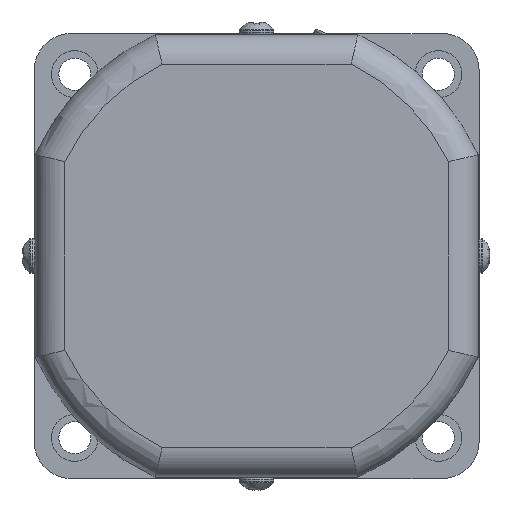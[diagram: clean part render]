
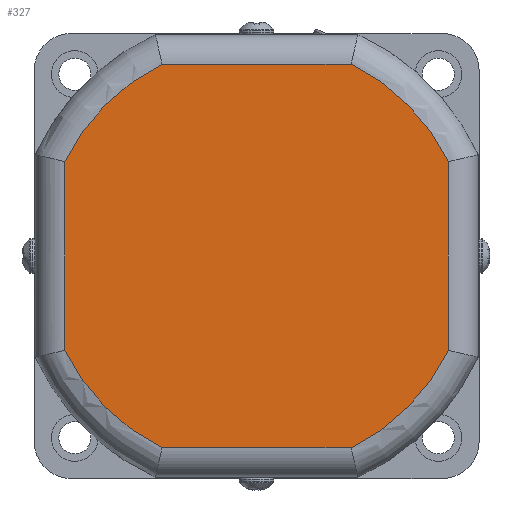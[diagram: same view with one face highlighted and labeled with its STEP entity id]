
A CAD part, left-side view. The second image highlights one B-rep face of the part: STEP entity #327.
In plain terms, the highlighted planar face has unit normal (-1, 0, 0).
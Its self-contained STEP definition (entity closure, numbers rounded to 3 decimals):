
#252=CARTESIAN_POINT('',(-23.,0.,0.));
#253=DIRECTION('',(1.0,0.0,0.0));
#254=DIRECTION('',(0.0,0.0,-1.0));
#255=AXIS2_PLACEMENT_3D('',#252,#253,#254);
#256=PLANE('',#255);
#257=CARTESIAN_POINT('',(-23.,38.8,-19.108));
#258=VERTEX_POINT('',#257);
#259=CARTESIAN_POINT('',(-23.,38.8,19.108));
#260=VERTEX_POINT('',#259);
#261=CARTESIAN_POINT('',(-23.,38.8,-19.108));
#262=DIRECTION('',(0.0,0.0,1.0));
#263=VECTOR('',#262,38.216);
#264=LINE('',#261,#263);
#265=EDGE_CURVE('',#258,#260,#264,.T.);
#266=ORIENTED_EDGE('',*,*,#265,.F.);
#267=CARTESIAN_POINT('',(-23.,19.108,-38.8));
#268=VERTEX_POINT('',#267);
#269=CARTESIAN_POINT('',(-23.,0.,0.));
#270=DIRECTION('',(1.,0.0,0.0));
#271=DIRECTION('',(0.0,0.707,-0.707));
#272=AXIS2_PLACEMENT_3D('',#269,#270,#271);
#273=CIRCLE('',#272,43.25);
#274=EDGE_CURVE('',#268,#258,#273,.T.);
#275=ORIENTED_EDGE('',*,*,#274,.F.);
#276=CARTESIAN_POINT('',(-23.,-19.108,-38.8));
#277=VERTEX_POINT('',#276);
#278=CARTESIAN_POINT('',(-23.,-19.108,-38.8));
#279=DIRECTION('',(0.0,1.0,0.0));
#280=VECTOR('',#279,38.216);
#281=LINE('',#278,#280);
#282=EDGE_CURVE('',#277,#268,#281,.T.);
#283=ORIENTED_EDGE('',*,*,#282,.F.);
#284=CARTESIAN_POINT('',(-23.,-38.8,-19.108));
#285=VERTEX_POINT('',#284);
#286=CARTESIAN_POINT('',(-23.,0.,0.));
#287=DIRECTION('',(1.,0.0,0.0));
#288=DIRECTION('',(0.0,-0.707,-0.707));
#289=AXIS2_PLACEMENT_3D('',#286,#287,#288);
#290=CIRCLE('',#289,43.25);
#291=EDGE_CURVE('',#285,#277,#290,.T.);
#292=ORIENTED_EDGE('',*,*,#291,.F.);
#293=CARTESIAN_POINT('',(-23.,-38.8,19.108));
#294=VERTEX_POINT('',#293);
#295=CARTESIAN_POINT('',(-23.,-38.8,19.108));
#296=DIRECTION('',(0.0,0.0,-1.0));
#297=VECTOR('',#296,38.216);
#298=LINE('',#295,#297);
#299=EDGE_CURVE('',#294,#285,#298,.T.);
#300=ORIENTED_EDGE('',*,*,#299,.F.);
#301=CARTESIAN_POINT('',(-23.,-19.108,38.8));
#302=VERTEX_POINT('',#301);
#303=CARTESIAN_POINT('',(-23.,0.,0.));
#304=DIRECTION('',(1.,0.0,0.0));
#305=DIRECTION('',(0.0,-0.707,0.707));
#306=AXIS2_PLACEMENT_3D('',#303,#304,#305);
#307=CIRCLE('',#306,43.25);
#308=EDGE_CURVE('',#302,#294,#307,.T.);
#309=ORIENTED_EDGE('',*,*,#308,.F.);
#310=CARTESIAN_POINT('',(-23.,19.108,38.8));
#311=VERTEX_POINT('',#310);
#312=CARTESIAN_POINT('',(-23.,19.108,38.8));
#313=DIRECTION('',(0.0,-1.0,0.0));
#314=VECTOR('',#313,38.216);
#315=LINE('',#312,#314);
#316=EDGE_CURVE('',#311,#302,#315,.T.);
#317=ORIENTED_EDGE('',*,*,#316,.F.);
#318=CARTESIAN_POINT('',(-23.,0.,0.));
#319=DIRECTION('',(1.,0.0,0.0));
#320=DIRECTION('',(0.0,0.707,0.707));
#321=AXIS2_PLACEMENT_3D('',#318,#319,#320);
#322=CIRCLE('',#321,43.25);
#323=EDGE_CURVE('',#260,#311,#322,.T.);
#324=ORIENTED_EDGE('',*,*,#323,.F.);
#325=EDGE_LOOP('',(#266,#275,#283,#292,#300,#309,#317,#324));
#326=FACE_OUTER_BOUND('',#325,.T.);
#327=ADVANCED_FACE('',(#326),#256,.F.);
